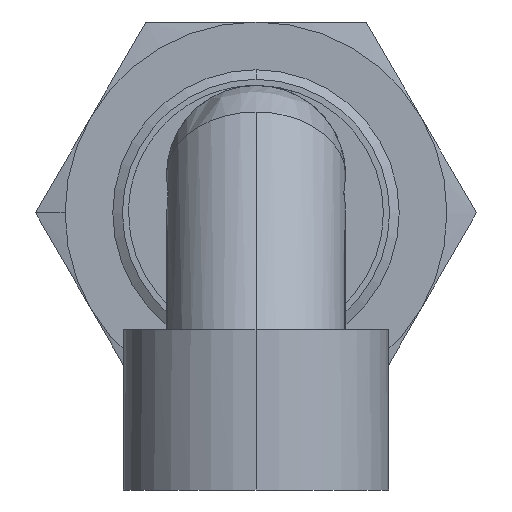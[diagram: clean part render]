
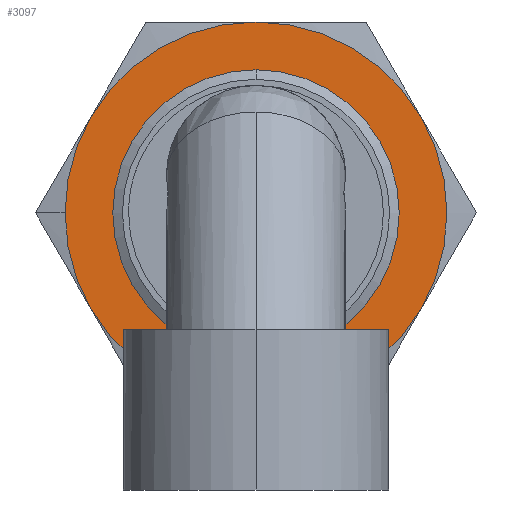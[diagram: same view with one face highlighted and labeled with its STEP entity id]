
A CAD part, left-side view. The second image highlights one B-rep face of the part: STEP entity #3097.
In plain terms, the highlighted planar face has unit normal (-1, 0, 0).
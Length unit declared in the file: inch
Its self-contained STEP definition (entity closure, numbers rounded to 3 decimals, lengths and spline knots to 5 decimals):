
#16469 = ORIENTED_EDGE ( 'NONE', *, *, #1530, .T. ) ;
#126 = ORIENTED_EDGE ( 'NONE', *, *, #14229, .T. ) ;
#729 = ORIENTED_EDGE ( 'NONE', *, *, #10883, .T. ) ;
#1264 = CARTESIAN_POINT ( 'NONE',  ( 0.98432, 0.40876, 0.236 ) ) ;
#1320 = EDGE_LOOP ( 'NONE', ( #729, #126, #16469, #15674, #9083, #8511, #7913 ) ) ;
#1530 = EDGE_CURVE ( 'NONE', #13062, #6003, #15198, .T. ) ;
#1594 = ORIENTED_EDGE ( 'NONE', *, *, #15167, .T. ) ;
#1649 = CIRCLE ( 'NONE', #1650, 0.472 ) ;
#1650 = AXIS2_PLACEMENT_3D ( 'NONE', #1651, #1652, #1653 ) ;
#1651 = CARTESIAN_POINT ( 'NONE',  ( 0.98432, 0., 0. ) ) ;
#1652 = DIRECTION ( 'NONE',  ( -1., 0., 0. ) ) ;
#1653 = DIRECTION ( 'NONE',  ( 0., 1., 0. ) ) ;
#1709 = VERTEX_POINT ( 'NONE', #15351 ) ;
#2215 = ORIENTED_EDGE ( 'NONE', *, *, #13414, .T. ) ;
#2601 = VERTEX_POINT ( 'NONE', #15950 ) ;
#2814 = EDGE_LOOP ( 'NONE', ( #2215, #1594 ) ) ;
#2851 = VERTEX_POINT ( 'NONE', #16085 ) ;
#3097 = ADVANCED_FACE ( 'NONE', ( #16241, #16242 ), #16256, .T. ) ;
#3122 = EDGE_CURVE ( 'NONE', #2851, #2601, #16291, .T. ) ;
#3137 = CIRCLE ( 'NONE', #3138, 0.472 ) ;
#3138 = AXIS2_PLACEMENT_3D ( 'NONE', #3139, #3140, #3141 ) ;
#3139 = CARTESIAN_POINT ( 'NONE',  ( 0.98432, 0., 0. ) ) ;
#3140 = DIRECTION ( 'NONE',  ( -1., 0., 0. ) ) ;
#3141 = DIRECTION ( 'NONE',  ( 0., 1., 0. ) ) ;
#4412 = CIRCLE ( 'NONE', #4413, 0.472 ) ;
#4413 = AXIS2_PLACEMENT_3D ( 'NONE', #4414, #4415, #4420 ) ;
#4414 = CARTESIAN_POINT ( 'NONE',  ( 0.98432, 0., 0. ) ) ;
#4415 = DIRECTION ( 'NONE',  ( -1., 0., 0. ) ) ;
#4420 = DIRECTION ( 'NONE',  ( 0., 0., -1. ) ) ;
#4633 = CARTESIAN_POINT ( 'NONE',  ( 0.98432, -0.40876, 0.236 ) ) ;
#6003 = VERTEX_POINT ( 'NONE', #1264 ) ;
#6336 = CIRCLE ( 'NONE', #6337, 0.472 ) ;
#6337 = AXIS2_PLACEMENT_3D ( 'NONE', #6338, #6339, #6340 ) ;
#6338 = CARTESIAN_POINT ( 'NONE',  ( 0.98432, 0., 0. ) ) ;
#6339 = DIRECTION ( 'NONE',  ( -1., 0., 0. ) ) ;
#6340 = DIRECTION ( 'NONE',  ( 0., 0., -1. ) ) ;
#6543 = CARTESIAN_POINT ( 'NONE',  ( 0.98432, 0., 0.472 ) ) ;
#6624 = EDGE_CURVE ( 'NONE', #2601, #14296, #1649, .T. ) ;
#7149 = CIRCLE ( 'NONE', #7161, 0.3305 ) ;
#7161 = AXIS2_PLACEMENT_3D ( 'NONE', #7162, #7163, #7164 ) ;
#7162 = CARTESIAN_POINT ( 'NONE',  ( 0.98432, 0., 0. ) ) ;
#7163 = DIRECTION ( 'NONE',  ( 1., 0., 0. ) ) ;
#7164 = DIRECTION ( 'NONE',  ( 0., 0., -1. ) ) ;
#7913 = ORIENTED_EDGE ( 'NONE', *, *, #12968, .T. ) ;
#8511 = ORIENTED_EDGE ( 'NONE', *, *, #6624, .T. ) ;
#8995 = EDGE_CURVE ( 'NONE', #6003, #2851, #3137, .T. ) ;
#9083 = ORIENTED_EDGE ( 'NONE', *, *, #3122, .T. ) ;
#9224 = CIRCLE ( 'NONE', #9225, 0.472 ) ;
#9225 = AXIS2_PLACEMENT_3D ( 'NONE', #9226, #9227, #9228 ) ;
#9226 = CARTESIAN_POINT ( 'NONE',  ( 0.98432, 0., 0. ) ) ;
#9227 = DIRECTION ( 'NONE',  ( -1., 0., 0. ) ) ;
#9228 = DIRECTION ( 'NONE',  ( 0., 0., -1. ) ) ;
#9342 = CARTESIAN_POINT ( 'NONE',  ( 0.98432, 0., -0.472 ) ) ;
#9724 = CARTESIAN_POINT ( 'NONE',  ( 0.98432, 0., -0.3305 ) ) ;
#9947 = CARTESIAN_POINT ( 'NONE',  ( 0.98432, 0., 0.3305 ) ) ;
#10055 = CIRCLE ( 'NONE', #10056, 0.3305 ) ;
#10056 = AXIS2_PLACEMENT_3D ( 'NONE', #10057, #10058, #10059 ) ;
#10057 = CARTESIAN_POINT ( 'NONE',  ( 0.98432, 0., 0. ) ) ;
#10058 = DIRECTION ( 'NONE',  ( 1., 0., 0. ) ) ;
#10059 = DIRECTION ( 'NONE',  ( 0., 0., -1. ) ) ;
#10883 = EDGE_CURVE ( 'NONE', #1709, #11190, #4412, .T. ) ;
#11190 = VERTEX_POINT ( 'NONE', #4633 ) ;
#12968 = EDGE_CURVE ( 'NONE', #14296, #1709, #6336, .T. ) ;
#13062 = VERTEX_POINT ( 'NONE', #6543 ) ;
#13414 = EDGE_CURVE ( 'NONE', #14729, #14999, #7149, .T. ) ;
#14229 = EDGE_CURVE ( 'NONE', #11190, #13062, #9224, .T. ) ;
#14296 = VERTEX_POINT ( 'NONE', #9342 ) ;
#14729 = VERTEX_POINT ( 'NONE', #9724 ) ;
#14999 = VERTEX_POINT ( 'NONE', #9947 ) ;
#15167 = EDGE_CURVE ( 'NONE', #14999, #14729, #10055, .T. ) ;
#15198 = CIRCLE ( 'NONE', #15199, 0.472 ) ;
#15199 = AXIS2_PLACEMENT_3D ( 'NONE', #15200, #15201, #15202 ) ;
#15200 = CARTESIAN_POINT ( 'NONE',  ( 0.98432, 0., 0. ) ) ;
#15201 = DIRECTION ( 'NONE',  ( -1., 0., 0. ) ) ;
#15202 = DIRECTION ( 'NONE',  ( 0., 1., 0. ) ) ;
#15351 = CARTESIAN_POINT ( 'NONE',  ( 0.98432, -0.40876, -0.236 ) ) ;
#15674 = ORIENTED_EDGE ( 'NONE', *, *, #8995, .T. ) ;
#15950 = CARTESIAN_POINT ( 'NONE',  ( 0.98432, 0.40876, -0.236 ) ) ;
#16085 = CARTESIAN_POINT ( 'NONE',  ( 0.98432, 0.472, 0. ) ) ;
#16241 = FACE_BOUND ( 'NONE', #2814, .T. ) ;
#16242 = FACE_OUTER_BOUND ( 'NONE', #1320, .T. ) ;
#16256 = PLANE ( 'NONE',  #16257 ) ;
#16257 = AXIS2_PLACEMENT_3D ( 'NONE', #16258, #16259, #16260 ) ;
#16258 = CARTESIAN_POINT ( 'NONE',  ( 0.98432, 0., 0. ) ) ;
#16259 = DIRECTION ( 'NONE',  ( -1., 0., 0. ) ) ;
#16260 = DIRECTION ( 'NONE',  ( 0., -1., 0. ) ) ;
#16291 = CIRCLE ( 'NONE', #16292, 0.472 ) ;
#16292 = AXIS2_PLACEMENT_3D ( 'NONE', #16293, #16294, #16295 ) ;
#16293 = CARTESIAN_POINT ( 'NONE',  ( 0.98432, 0., 0. ) ) ;
#16294 = DIRECTION ( 'NONE',  ( -1., 0., 0. ) ) ;
#16295 = DIRECTION ( 'NONE',  ( 0., 1., 0. ) ) ;
